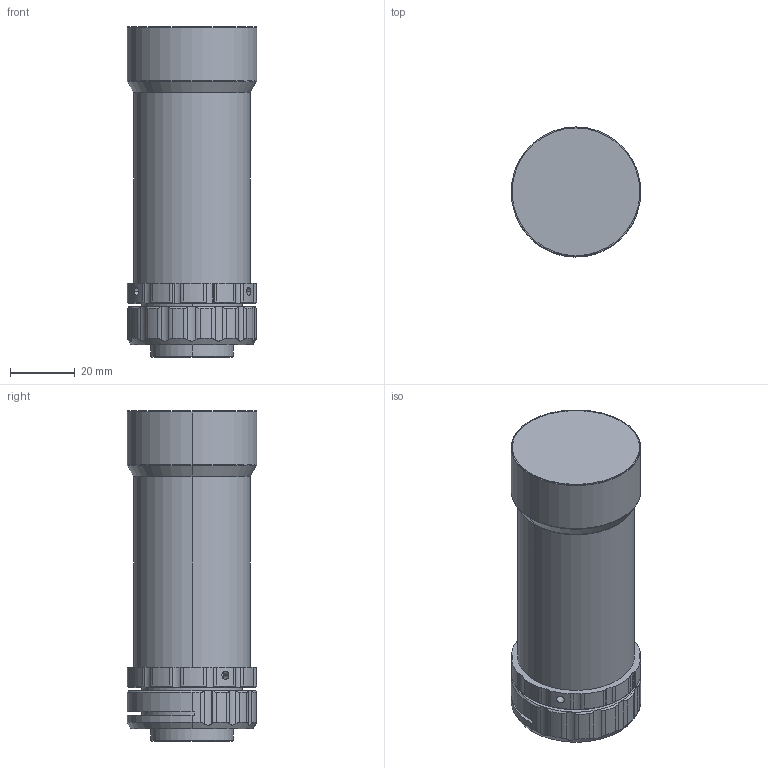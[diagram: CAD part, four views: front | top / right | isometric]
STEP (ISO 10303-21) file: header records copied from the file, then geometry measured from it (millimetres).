
FILE_DESCRIPTION (( 'STEP AP214' ), '1' );
FILE_NAME ('WWT121-025-423.STEP', '2024-08-06T06:17:16', ( 'litao' ), ( '' ), 'SwSTEP 2.0', 'SolidWorks 2017', '' );
FILE_SCHEMA (( 'AUTOMOTIVE_DESIGN' ));
Length unit declared in the file: millimetre
Products named in the file (1): WWT121-025-423
Bounding box: 40 x 40 x 101.9 mm (x, y, z)
Volume: 108764.4 mm3; surface area: 17986.3 mm2
Topology: 1 solids, 2 shells, 199 faces, 523 edges, 335 vertices
Faces by surface type: cylinder 123, cone 48, plane 24, bspline 4
Entity records: 6869 total; most frequent: CARTESIAN_POINT 1910, ORIENTED_EDGE 1038, DIRECTION 1005, EDGE_CURVE 519, AXIS2_PLACEMENT_3D 416, VERTEX_POINT 335, CIRCLE 220, EDGE_LOOP 216
